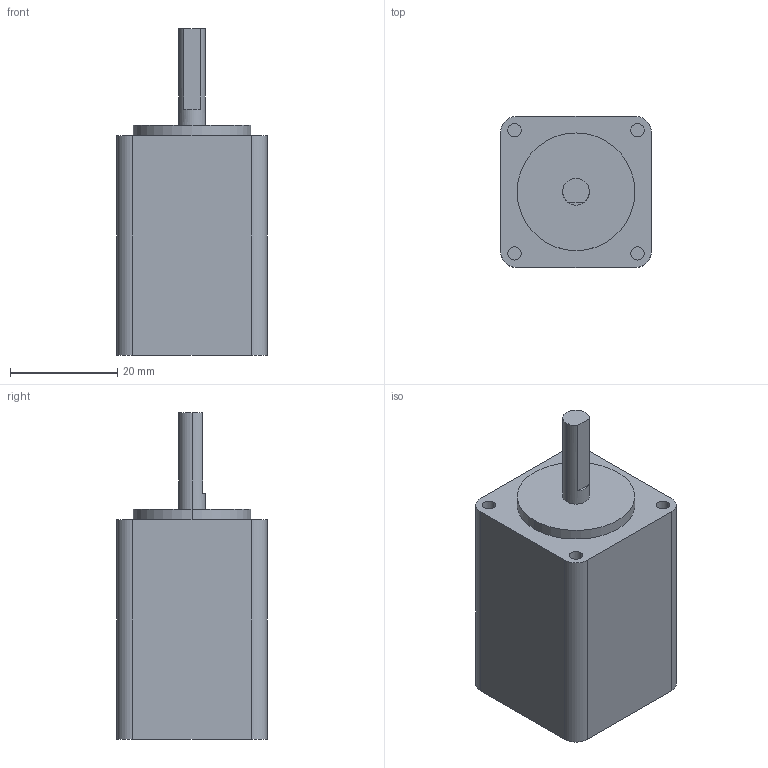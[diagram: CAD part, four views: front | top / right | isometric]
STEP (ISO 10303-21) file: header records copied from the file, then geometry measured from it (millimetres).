
FILE_DESCRIPTION (( 'STEP AP214' ), '1' );
FILE_NAME ('28CM010.STEP', '2018-06-05T00:40:30', ( 'Microsoft' ), ( 'China' ), 'SwSTEP 2.0', 'SolidWorks 2011', '' );
FILE_SCHEMA (( 'AUTOMOTIVE_DESIGN' ));
Length unit declared in the file: millimetre
Products named in the file (1): 28CM010
Bounding box: 28.2 x 28.2 x 61 mm (x, y, z)
Volume: 33337.4 mm3; surface area: 6484.9 mm2
Topology: 1 solids, 1 shells, 30 faces, 66 edges, 44 vertices
Faces by surface type: cylinder 16, plane 14
Entity records: 878 total; most frequent: DIRECTION 162, CARTESIAN_POINT 141, ORIENTED_EDGE 132, EDGE_CURVE 66, AXIS2_PLACEMENT_3D 65, VERTEX_POINT 44, EDGE_LOOP 36, CIRCLE 34
